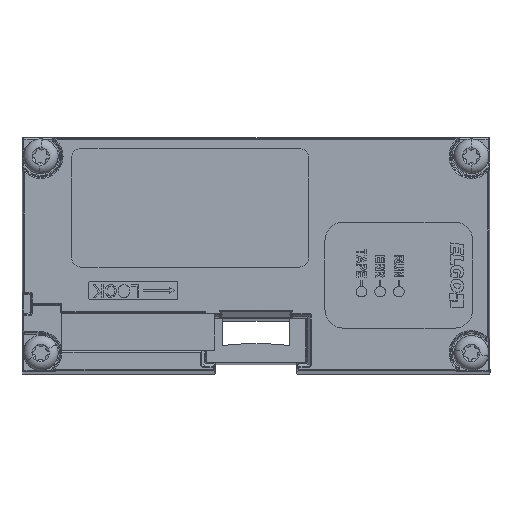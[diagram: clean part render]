
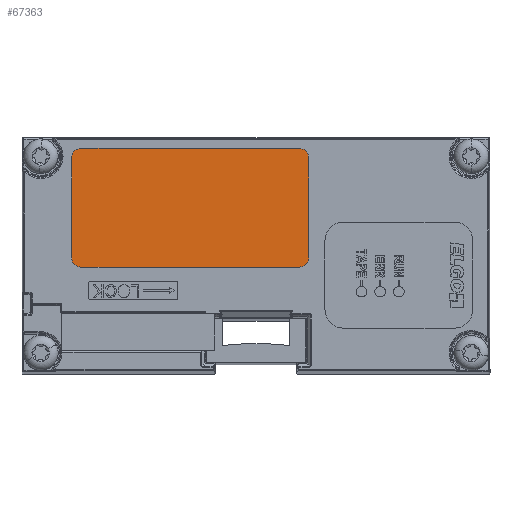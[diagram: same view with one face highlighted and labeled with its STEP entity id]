
A CAD part, top view. The second image highlights one B-rep face of the part: STEP entity #67363.
In plain terms, the highlighted planar face has unit normal (0, 0, 1).
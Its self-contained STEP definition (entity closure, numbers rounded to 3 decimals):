
#2675 = CIRCLE ( 'NONE', #24205, 1.5 ) ;
#3894 = FACE_OUTER_BOUND ( 'NONE', #28531, .T. ) ;
#5036 = AXIS2_PLACEMENT_3D ( 'NONE', #20361, #45972, #61849 ) ;
#6976 = CARTESIAN_POINT ( 'NONE',  ( 6.418, 17.519, 131.622 ) ) ;
#7632 = EDGE_CURVE ( 'NONE', #51041, #48377, #80977, .T. ) ;
#8721 = CARTESIAN_POINT ( 'NONE',  ( -28.582, 0.019, 131.622 ) ) ;
#8992 = DIRECTION ( 'NONE',  ( 0., -1., 0. ) ) ;
#9370 = CARTESIAN_POINT ( 'NONE',  ( -0.532, 0.519, 131.622 ) ) ;
#10097 = VECTOR ( 'NONE', #32892, 1000. ) ;
#11058 = ORIENTED_EDGE ( 'NONE', *, *, #36626, .T. ) ;
#11412 = EDGE_CURVE ( 'NONE', #59342, #51041, #25219, .T. ) ;
#13619 = CARTESIAN_POINT ( 'NONE',  ( -28.582, -1.481, 131.622 ) ) ;
#14990 = ORIENTED_EDGE ( 'NONE', *, *, #43482, .T. ) ;
#18212 = CARTESIAN_POINT ( 'NONE',  ( 7.918, 0.019, 131.622 ) ) ;
#20361 = CARTESIAN_POINT ( 'NONE',  ( -28.582, 16.019, 131.622 ) ) ;
#23474 = VERTEX_POINT ( 'NONE', #78358 ) ;
#24205 = AXIS2_PLACEMENT_3D ( 'NONE', #8721, #65061, #52470 ) ;
#24223 = CARTESIAN_POINT ( 'NONE',  ( -30.082, 0.019, 131.622 ) ) ;
#25055 = CIRCLE ( 'NONE', #41241, 1.5 ) ;
#25219 = CIRCLE ( 'NONE', #5036, 1.5 ) ;
#28531 = EDGE_LOOP ( 'NONE', ( #11058, #38027, #52017, #14990, #67047, #53799, #65404, #45712 ) ) ;
#32892 = DIRECTION ( 'NONE',  ( 1., 0., 0. ) ) ;
#33794 = CARTESIAN_POINT ( 'NONE',  ( 6.418, 0.019, 131.622 ) ) ;
#34023 = CARTESIAN_POINT ( 'NONE',  ( -28.582, 17.519, 131.622 ) ) ;
#34215 = DIRECTION ( 'NONE',  ( 0., 1., 0. ) ) ;
#35577 = LINE ( 'NONE', #61203, #40768 ) ;
#36007 = VERTEX_POINT ( 'NONE', #6976 ) ;
#36325 = DIRECTION ( 'NONE',  ( 0., 0., -1. ) ) ;
#36626 = EDGE_CURVE ( 'NONE', #42943, #23474, #37969, .T. ) ;
#37969 = LINE ( 'NONE', #71577, #10097 ) ;
#38027 = ORIENTED_EDGE ( 'NONE', *, *, #72347, .T. ) ;
#38518 = VERTEX_POINT ( 'NONE', #18212 ) ;
#39743 = DIRECTION ( 'NONE',  ( 0., 0., 1. ) ) ;
#40768 = VECTOR ( 'NONE', #54471, 1000. ) ;
#41241 = AXIS2_PLACEMENT_3D ( 'NONE', #69176, #62858, #67519 ) ;
#41392 = PLANE ( 'NONE',  #66259 ) ;
#42943 = VERTEX_POINT ( 'NONE', #13619 ) ;
#43482 = EDGE_CURVE ( 'NONE', #77711, #36007, #25055, .T. ) ;
#45712 = ORIENTED_EDGE ( 'NONE', *, *, #50725, .T. ) ;
#45972 = DIRECTION ( 'NONE',  ( 0., 0., 1. ) ) ;
#48377 = VERTEX_POINT ( 'NONE', #24223 ) ;
#50725 = EDGE_CURVE ( 'NONE', #48377, #42943, #2675, .T. ) ;
#51041 = VERTEX_POINT ( 'NONE', #73283 ) ;
#52017 = ORIENTED_EDGE ( 'NONE', *, *, #67099, .T. ) ;
#52470 = DIRECTION ( 'NONE',  ( 0., 1., 0. ) ) ;
#52724 = CIRCLE ( 'NONE', #60748, 1.5 ) ;
#53799 = ORIENTED_EDGE ( 'NONE', *, *, #11412, .T. ) ;
#54471 = DIRECTION ( 'NONE',  ( 0., 1., 0. ) ) ;
#54757 = LINE ( 'NONE', #69035, #59429 ) ;
#59342 = VERTEX_POINT ( 'NONE', #34023 ) ;
#59429 = VECTOR ( 'NONE', #75819, 1000. ) ;
#60678 = VECTOR ( 'NONE', #8992, 1000. ) ;
#60705 = CARTESIAN_POINT ( 'NONE',  ( -30.082, 0.519, 131.622 ) ) ;
#60748 = AXIS2_PLACEMENT_3D ( 'NONE', #33794, #39743, #34215 ) ;
#61203 = CARTESIAN_POINT ( 'NONE',  ( 7.918, 0.519, 131.622 ) ) ;
#61352 = EDGE_CURVE ( 'NONE', #36007, #59342, #54757, .T. ) ;
#61849 = DIRECTION ( 'NONE',  ( 0., 1., 0. ) ) ;
#62858 = DIRECTION ( 'NONE',  ( 0., 0., 1. ) ) ;
#65061 = DIRECTION ( 'NONE',  ( 0., 0., 1. ) ) ;
#65404 = ORIENTED_EDGE ( 'NONE', *, *, #7632, .T. ) ;
#66259 = AXIS2_PLACEMENT_3D ( 'NONE', #9370, #36325, #74172 ) ;
#67047 = ORIENTED_EDGE ( 'NONE', *, *, #61352, .T. ) ;
#67099 = EDGE_CURVE ( 'NONE', #38518, #77711, #35577, .T. ) ;
#67296 = CARTESIAN_POINT ( 'NONE',  ( 7.918, 16.019, 131.622 ) ) ;
#67363 = ADVANCED_FACE ( 'NONE', ( #3894 ), #41392, .F. ) ;
#67519 = DIRECTION ( 'NONE',  ( 0., 1., 0. ) ) ;
#69035 = CARTESIAN_POINT ( 'NONE',  ( -0.532, 17.519, 131.622 ) ) ;
#69176 = CARTESIAN_POINT ( 'NONE',  ( 6.418, 16.019, 131.622 ) ) ;
#71577 = CARTESIAN_POINT ( 'NONE',  ( -0.532, -1.481, 131.622 ) ) ;
#72347 = EDGE_CURVE ( 'NONE', #23474, #38518, #52724, .T. ) ;
#73283 = CARTESIAN_POINT ( 'NONE',  ( -30.082, 16.019, 131.622 ) ) ;
#74172 = DIRECTION ( 'NONE',  ( 1., 0., 0. ) ) ;
#75819 = DIRECTION ( 'NONE',  ( -1., 0., 0. ) ) ;
#77711 = VERTEX_POINT ( 'NONE', #67296 ) ;
#78358 = CARTESIAN_POINT ( 'NONE',  ( 6.418, -1.481, 131.622 ) ) ;
#80977 = LINE ( 'NONE', #60705, #60678 ) ;
